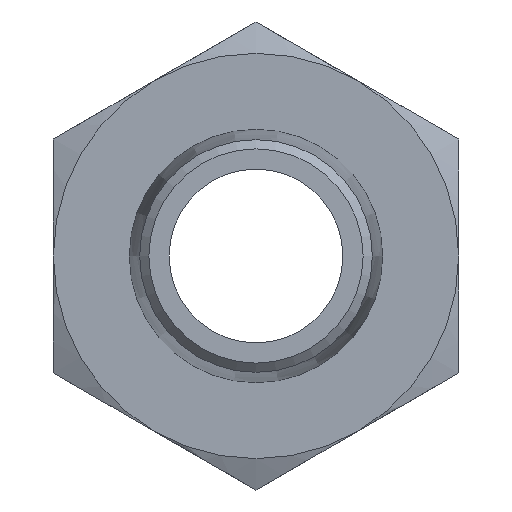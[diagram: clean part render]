
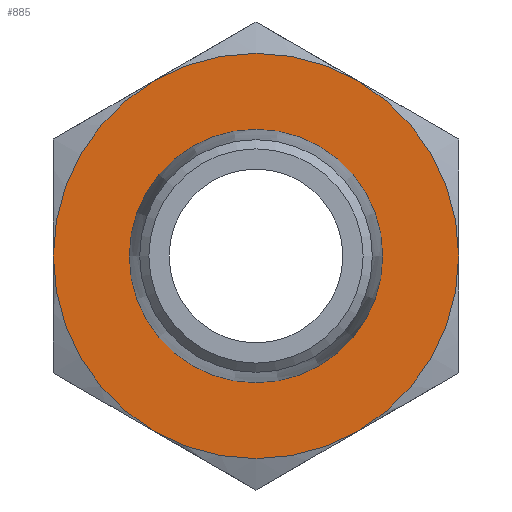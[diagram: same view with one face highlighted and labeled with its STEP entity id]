
A CAD part, front view. The second image highlights one B-rep face of the part: STEP entity #885.
In plain terms, the highlighted planar face has unit normal (0, -1, 0).
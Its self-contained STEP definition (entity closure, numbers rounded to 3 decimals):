
#37=FACE_BOUND('',#189,.T.);
#128=FACE_OUTER_BOUND('',#188,.T.);
#188=EDGE_LOOP('',(#800,#801,#802,#803,#804,#805));
#189=EDGE_LOOP('',(#806));
#221=CIRCLE('',#976,4.375);
#222=CIRCLE('',#978,7.);
#223=CIRCLE('',#980,7.);
#224=CIRCLE('',#982,7.);
#225=CIRCLE('',#984,7.);
#226=CIRCLE('',#986,7.);
#227=CIRCLE('',#988,7.);
#387=VERTEX_POINT('',#1369);
#392=VERTEX_POINT('',#1390);
#414=VERTEX_POINT('',#1470);
#415=VERTEX_POINT('',#1476);
#417=VERTEX_POINT('',#1483);
#419=VERTEX_POINT('',#1496);
#421=VERTEX_POINT('',#1506);
#519=EDGE_CURVE('',#414,#414,#221,.T.);
#521=EDGE_CURVE('',#392,#387,#222,.T.);
#523=EDGE_CURVE('',#415,#392,#223,.T.);
#526=EDGE_CURVE('',#417,#415,#224,.T.);
#528=EDGE_CURVE('',#419,#417,#225,.T.);
#531=EDGE_CURVE('',#421,#419,#226,.T.);
#534=EDGE_CURVE('',#387,#421,#227,.T.);
#800=ORIENTED_EDGE('',*,*,#534,.T.);
#801=ORIENTED_EDGE('',*,*,#531,.T.);
#802=ORIENTED_EDGE('',*,*,#528,.T.);
#803=ORIENTED_EDGE('',*,*,#526,.T.);
#804=ORIENTED_EDGE('',*,*,#523,.T.);
#805=ORIENTED_EDGE('',*,*,#521,.T.);
#806=ORIENTED_EDGE('',*,*,#519,.T.);
#831=PLANE('',#1006);
#885=ADVANCED_FACE('',(#128,#37),#831,.F.);
#976=AXIS2_PLACEMENT_3D('',#1471,#1194,#1195);
#978=AXIS2_PLACEMENT_3D('',#1474,#1199,#1200);
#980=AXIS2_PLACEMENT_3D('',#1480,#1203,#1204);
#982=AXIS2_PLACEMENT_3D('',#1490,#1207,#1208);
#984=AXIS2_PLACEMENT_3D('',#1497,#1211,#1212);
#986=AXIS2_PLACEMENT_3D('',#1507,#1215,#1216);
#988=AXIS2_PLACEMENT_3D('',#1515,#1219,#1220);
#1006=AXIS2_PLACEMENT_3D('',#1570,#1261,#1262);
#1194=DIRECTION('center_axis',(0.,1.,0.));
#1195=DIRECTION('ref_axis',(1.,0.,0.));
#1199=DIRECTION('center_axis',(0.,-1.,0.));
#1200=DIRECTION('ref_axis',(1.,0.,0.));
#1203=DIRECTION('center_axis',(0.,-1.,0.));
#1204=DIRECTION('ref_axis',(1.,0.,0.));
#1207=DIRECTION('center_axis',(0.,-1.,0.));
#1208=DIRECTION('ref_axis',(1.,0.,0.));
#1211=DIRECTION('center_axis',(0.,-1.,0.));
#1212=DIRECTION('ref_axis',(1.,0.,0.));
#1215=DIRECTION('center_axis',(0.,-1.,0.));
#1216=DIRECTION('ref_axis',(1.,0.,0.));
#1219=DIRECTION('center_axis',(0.,-1.,0.));
#1220=DIRECTION('ref_axis',(1.,0.,0.));
#1261=DIRECTION('center_axis',(0.,1.,0.));
#1262=DIRECTION('ref_axis',(0.,0.,1.));
#1369=CARTESIAN_POINT('',(-3.5,0.,-6.062));
#1390=CARTESIAN_POINT('',(-7.,0.,0.));
#1470=CARTESIAN_POINT('',(-4.375,0.,0.));
#1471=CARTESIAN_POINT('Origin',(0.,0.,0.));
#1474=CARTESIAN_POINT('Origin',(0.,0.,0.));
#1476=CARTESIAN_POINT('',(-3.5,0.,6.062));
#1480=CARTESIAN_POINT('Origin',(0.,0.,0.));
#1483=CARTESIAN_POINT('',(3.5,0.,6.062));
#1490=CARTESIAN_POINT('Origin',(0.,0.,0.));
#1496=CARTESIAN_POINT('',(7.,0.,0.));
#1497=CARTESIAN_POINT('Origin',(0.,0.,0.));
#1506=CARTESIAN_POINT('',(3.5,0.,-6.062));
#1507=CARTESIAN_POINT('Origin',(0.,0.,0.));
#1515=CARTESIAN_POINT('Origin',(0.,0.,0.));
#1570=CARTESIAN_POINT('Origin',(0.,0.,0.));
